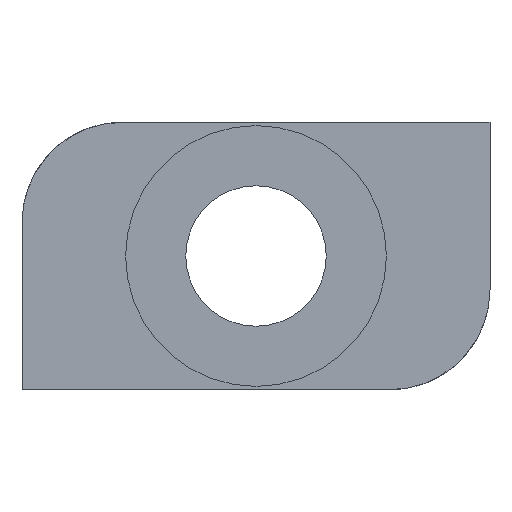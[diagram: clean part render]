
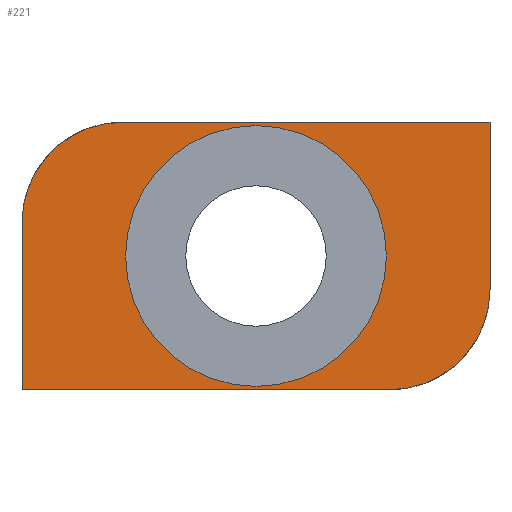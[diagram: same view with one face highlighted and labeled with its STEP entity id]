
A CAD part, front view. The second image highlights one B-rep face of the part: STEP entity #221.
In plain terms, the highlighted planar face has unit normal (0, -1, 0).
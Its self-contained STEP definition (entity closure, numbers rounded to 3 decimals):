
#20=FACE_BOUND('',#57,.T.);
#33=PLANE('',#260);
#42=FACE_OUTER_BOUND('',#56,.T.);
#56=EDGE_LOOP('',(#183,#184,#185,#186,#187,#188));
#57=EDGE_LOOP('',(#189));
#66=LINE('',#342,#80);
#69=LINE('',#353,#83);
#75=LINE('',#377,#89);
#77=LINE('',#388,#91);
#80=VECTOR('',#286,1000.);
#83=VECTOR('',#291,1000.);
#89=VECTOR('',#305,1000.);
#91=VECTOR('',#309,1000.);
#94=CIRCLE('',#251,3.9);
#98=CIRCLE('',#261,3.);
#99=CIRCLE('',#262,3.);
#102=VERTEX_POINT('',#334);
#104=VERTEX_POINT('',#340);
#105=VERTEX_POINT('',#341);
#108=VERTEX_POINT('',#351);
#109=VERTEX_POINT('',#352);
#117=VERTEX_POINT('',#375);
#119=VERTEX_POINT('',#386);
#123=EDGE_CURVE('',#102,#102,#94,.T.);
#126=EDGE_CURVE('',#104,#105,#66,.T.);
#130=EDGE_CURVE('',#108,#109,#69,.T.);
#140=EDGE_CURVE('',#117,#108,#75,.T.);
#144=EDGE_CURVE('',#105,#119,#77,.T.);
#146=EDGE_CURVE('',#119,#109,#98,.T.);
#147=EDGE_CURVE('',#117,#104,#99,.T.);
#183=ORIENTED_EDGE('',*,*,#144,.T.);
#184=ORIENTED_EDGE('',*,*,#146,.T.);
#185=ORIENTED_EDGE('',*,*,#130,.F.);
#186=ORIENTED_EDGE('',*,*,#140,.F.);
#187=ORIENTED_EDGE('',*,*,#147,.T.);
#188=ORIENTED_EDGE('',*,*,#126,.T.);
#189=ORIENTED_EDGE('',*,*,#123,.F.);
#221=ADVANCED_FACE('',(#42,#20),#33,.F.);
#251=AXIS2_PLACEMENT_3D('',#335,#279,#280);
#260=AXIS2_PLACEMENT_3D('',#392,#310,#311);
#261=AXIS2_PLACEMENT_3D('',#393,#312,#313);
#262=AXIS2_PLACEMENT_3D('',#394,#314,#315);
#279=DIRECTION('center_axis',(0.,-1.,0.));
#280=DIRECTION('ref_axis',(-1.,0.,0.));
#286=DIRECTION('',(0.,0.,-1.));
#291=DIRECTION('',(0.,0.,-1.));
#305=DIRECTION('',(1.,0.,0.));
#309=DIRECTION('',(1.,0.,0.));
#310=DIRECTION('center_axis',(0.,1.,0.));
#311=DIRECTION('ref_axis',(-1.,0.,0.));
#312=DIRECTION('center_axis',(0.,-1.,0.));
#313=DIRECTION('ref_axis',(-1.,0.,0.));
#314=DIRECTION('center_axis',(0.,-1.,0.));
#315=DIRECTION('ref_axis',(-1.,0.,0.));
#334=CARTESIAN_POINT('',(3.9,-5.8,0.));
#335=CARTESIAN_POINT('Origin',(0.,-5.8,0.));
#340=CARTESIAN_POINT('',(-7.,-5.8,1.));
#341=CARTESIAN_POINT('',(-7.,-5.8,-4.));
#342=CARTESIAN_POINT('',(-7.,-5.8,4.));
#351=CARTESIAN_POINT('',(7.,-5.8,4.));
#352=CARTESIAN_POINT('',(7.,-5.8,-1.));
#353=CARTESIAN_POINT('',(7.,-5.8,4.));
#375=CARTESIAN_POINT('',(-4.,-5.8,4.));
#377=CARTESIAN_POINT('',(-7.,-5.8,4.));
#386=CARTESIAN_POINT('',(4.,-5.8,-4.));
#388=CARTESIAN_POINT('',(-7.,-5.8,-4.));
#392=CARTESIAN_POINT('Origin',(-7.,-5.8,4.));
#393=CARTESIAN_POINT('Origin',(4.,-5.8,-1.));
#394=CARTESIAN_POINT('Origin',(-4.,-5.8,1.));
